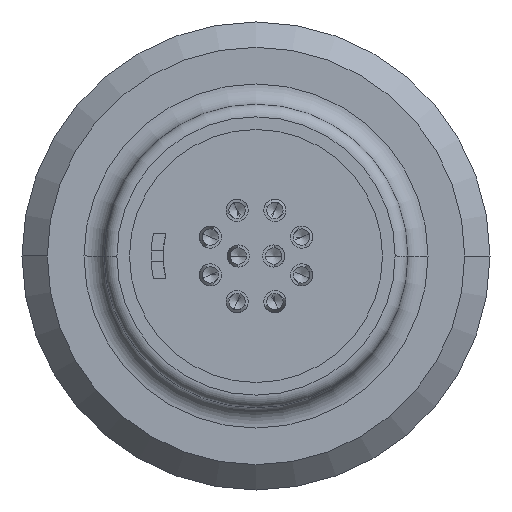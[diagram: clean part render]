
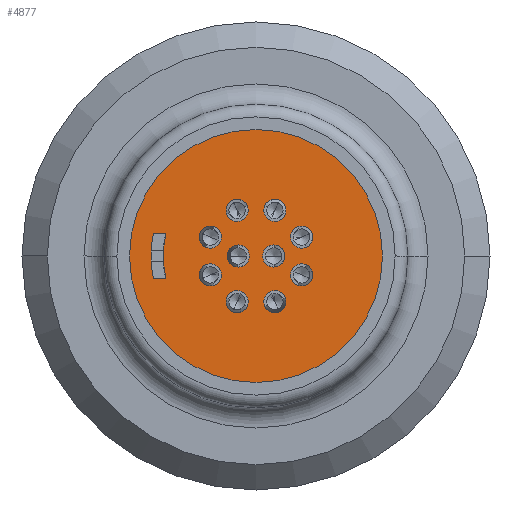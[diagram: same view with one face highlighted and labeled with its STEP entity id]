
A CAD part, left-side view. The second image highlights one B-rep face of the part: STEP entity #4877.
In plain terms, the highlighted planar face has unit normal (-1, 0, 0).
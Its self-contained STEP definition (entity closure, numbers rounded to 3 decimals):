
#157=CARTESIAN_POINT('',(-10.4,0.,0.));
#158=DIRECTION('',(1.,0.,0.));
#159=DIRECTION('',(0.,1.,0.));
#160=AXIS2_PLACEMENT_3D('',#157,#158,#159);
#162=CARTESIAN_POINT('',(-10.4,0.,0.));
#163=DIRECTION('',(1.,0.,0.));
#164=DIRECTION('',(0.,-1.,0.));
#165=AXIS2_PLACEMENT_3D('',#162,#163,#164);
#167=CARTESIAN_POINT('',(-10.4,1.802,0.746));
#168=DIRECTION('',(-1.,0.,0.));
#169=DIRECTION('',(0.,0.924,0.383));
#170=AXIS2_PLACEMENT_3D('',#167,#168,#169);
#172=CARTESIAN_POINT('',(-10.4,1.802,0.746));
#173=DIRECTION('',(-1.,0.,0.));
#174=DIRECTION('',(0.,-0.924,-0.383));
#175=AXIS2_PLACEMENT_3D('',#172,#173,#174);
#177=CARTESIAN_POINT('',(-10.4,0.746,1.802));
#178=DIRECTION('',(-1.,0.,0.));
#179=DIRECTION('',(0.,0.383,0.924));
#180=AXIS2_PLACEMENT_3D('',#177,#178,#179);
#182=CARTESIAN_POINT('',(-10.4,0.746,1.802));
#183=DIRECTION('',(-1.,0.,0.));
#184=DIRECTION('',(0.,-0.383,-0.924));
#185=AXIS2_PLACEMENT_3D('',#182,#183,#184);
#187=CARTESIAN_POINT('',(-10.4,-0.746,1.802));
#188=DIRECTION('',(-1.,0.,0.));
#189=DIRECTION('',(0.,-0.383,0.924));
#190=AXIS2_PLACEMENT_3D('',#187,#188,#189);
#192=CARTESIAN_POINT('',(-10.4,-0.746,1.802));
#193=DIRECTION('',(-1.,0.,0.));
#194=DIRECTION('',(0.,0.383,-0.924));
#195=AXIS2_PLACEMENT_3D('',#192,#193,#194);
#197=CARTESIAN_POINT('',(-10.4,-1.802,0.746));
#198=DIRECTION('',(-1.,0.,0.));
#199=DIRECTION('',(0.,-0.924,0.383));
#200=AXIS2_PLACEMENT_3D('',#197,#198,#199);
#202=CARTESIAN_POINT('',(-10.4,-1.802,0.746));
#203=DIRECTION('',(-1.,0.,0.));
#204=DIRECTION('',(0.,0.924,-0.383));
#205=AXIS2_PLACEMENT_3D('',#202,#203,#204);
#207=CARTESIAN_POINT('',(-10.4,-1.802,-0.746));
#208=DIRECTION('',(-1.,0.,0.));
#209=DIRECTION('',(0.,-0.924,-0.383));
#210=AXIS2_PLACEMENT_3D('',#207,#208,#209);
#212=CARTESIAN_POINT('',(-10.4,-1.802,-0.746));
#213=DIRECTION('',(-1.,0.,0.));
#214=DIRECTION('',(0.,0.924,0.383));
#215=AXIS2_PLACEMENT_3D('',#212,#213,#214);
#217=CARTESIAN_POINT('',(-10.4,-0.746,-1.802));
#218=DIRECTION('',(-1.,0.,0.));
#219=DIRECTION('',(0.,-0.383,-0.924));
#220=AXIS2_PLACEMENT_3D('',#217,#218,#219);
#222=CARTESIAN_POINT('',(-10.4,-0.746,-1.802));
#223=DIRECTION('',(-1.,0.,0.));
#224=DIRECTION('',(0.,0.383,0.924));
#225=AXIS2_PLACEMENT_3D('',#222,#223,#224);
#227=CARTESIAN_POINT('',(-10.4,0.746,-1.802));
#228=DIRECTION('',(-1.,0.,0.));
#229=DIRECTION('',(0.,0.383,-0.924));
#230=AXIS2_PLACEMENT_3D('',#227,#228,#229);
#232=CARTESIAN_POINT('',(-10.4,0.746,-1.802));
#233=DIRECTION('',(-1.,0.,0.));
#234=DIRECTION('',(0.,-0.383,0.924));
#235=AXIS2_PLACEMENT_3D('',#232,#233,#234);
#237=CARTESIAN_POINT('',(-10.4,1.802,-0.746));
#238=DIRECTION('',(-1.,0.,0.));
#239=DIRECTION('',(0.,0.924,-0.383));
#240=AXIS2_PLACEMENT_3D('',#237,#238,#239);
#242=CARTESIAN_POINT('',(-10.4,1.802,-0.746));
#243=DIRECTION('',(-1.,0.,0.));
#244=DIRECTION('',(0.,-0.924,0.383));
#245=AXIS2_PLACEMENT_3D('',#242,#243,#244);
#247=CARTESIAN_POINT('',(-10.4,-0.7,0.));
#248=DIRECTION('',(-1.,0.,0.));
#249=DIRECTION('',(0.,-1.,0.));
#250=AXIS2_PLACEMENT_3D('',#247,#248,#249);
#252=CARTESIAN_POINT('',(-10.4,-0.7,0.));
#253=DIRECTION('',(-1.,0.,0.));
#254=DIRECTION('',(0.,1.,0.));
#255=AXIS2_PLACEMENT_3D('',#252,#253,#254);
#257=CARTESIAN_POINT('',(-10.4,0.7,0.));
#258=DIRECTION('',(-1.,0.,0.));
#259=DIRECTION('',(0.,1.,0.));
#260=AXIS2_PLACEMENT_3D('',#257,#258,#259);
#262=CARTESIAN_POINT('',(-10.4,0.7,0.));
#263=DIRECTION('',(-1.,0.,0.));
#264=DIRECTION('',(0.,-1.,0.));
#265=AXIS2_PLACEMENT_3D('',#262,#263,#264);
#267=CARTESIAN_POINT('',(-10.4,0.,0.));
#268=DIRECTION('',(-1.,0.,0.));
#269=DIRECTION('',(0.,0.976,0.217));
#270=AXIS2_PLACEMENT_3D('',#267,#268,#269);
#272=CARTESIAN_POINT('',(-10.4,0.,0.));
#273=DIRECTION('',(1.,0.,0.));
#274=DIRECTION('',(0.,0.97,-0.245));
#275=AXIS2_PLACEMENT_3D('',#272,#273,#274);
#3731=DIRECTION('',(0.,-1.,0.));
#3732=VECTOR('',#3731,0.488);
#3733=CARTESIAN_POINT('',(-10.4,4.051,0.9));
#3734=LINE('',#3733,#3732);
#3755=DIRECTION('',(0.,1.,0.));
#3756=VECTOR('',#3755,0.488);
#3757=CARTESIAN_POINT('',(-10.4,3.563,-0.9));
#3758=LINE('',#3757,#3756);
#3852=CARTESIAN_POINT('',(-10.4,0.58,-1.4));
#3853=CARTESIAN_POINT('',(-10.4,0.913,-2.203));
#3854=VERTEX_POINT('',#3852);
#3855=VERTEX_POINT('',#3853);
#3856=CARTESIAN_POINT('',(-10.4,5.,0.));
#3857=CARTESIAN_POINT('',(-10.4,-5.,0.));
#3858=VERTEX_POINT('',#3856);
#3859=VERTEX_POINT('',#3857);
#3860=CARTESIAN_POINT('',(-10.4,2.203,0.913));
#3861=CARTESIAN_POINT('',(-10.4,1.4,0.58));
#3862=VERTEX_POINT('',#3860);
#3863=VERTEX_POINT('',#3861);
#3864=CARTESIAN_POINT('',(-10.4,0.913,2.203));
#3865=CARTESIAN_POINT('',(-10.4,0.58,1.4));
#3866=VERTEX_POINT('',#3864);
#3867=VERTEX_POINT('',#3865);
#3868=CARTESIAN_POINT('',(-10.4,-0.913,2.203));
#3869=CARTESIAN_POINT('',(-10.4,-0.58,1.4));
#3870=VERTEX_POINT('',#3868);
#3871=VERTEX_POINT('',#3869);
#3872=CARTESIAN_POINT('',(-10.4,-2.203,0.913));
#3873=CARTESIAN_POINT('',(-10.4,-1.4,0.58));
#3874=VERTEX_POINT('',#3872);
#3875=VERTEX_POINT('',#3873);
#3876=CARTESIAN_POINT('',(-10.4,-2.203,-0.913));
#3877=CARTESIAN_POINT('',(-10.4,-1.4,-0.58));
#3878=VERTEX_POINT('',#3876);
#3879=VERTEX_POINT('',#3877);
#3880=CARTESIAN_POINT('',(-10.4,-0.913,-2.203));
#3881=CARTESIAN_POINT('',(-10.4,-0.58,-1.4));
#3882=VERTEX_POINT('',#3880);
#3883=VERTEX_POINT('',#3881);
#3884=CARTESIAN_POINT('',(-10.4,2.203,-0.913));
#3885=CARTESIAN_POINT('',(-10.4,1.4,-0.58));
#3886=VERTEX_POINT('',#3884);
#3887=VERTEX_POINT('',#3885);
#3888=CARTESIAN_POINT('',(-10.4,-1.135,0.));
#3889=CARTESIAN_POINT('',(-10.4,-0.265,0.));
#3890=VERTEX_POINT('',#3888);
#3891=VERTEX_POINT('',#3889);
#3892=CARTESIAN_POINT('',(-10.4,1.135,0.));
#3893=CARTESIAN_POINT('',(-10.4,0.265,0.));
#3894=VERTEX_POINT('',#3892);
#3895=VERTEX_POINT('',#3893);
#3896=CARTESIAN_POINT('',(-10.4,4.051,0.9));
#3897=CARTESIAN_POINT('',(-10.4,4.051,-0.9));
#3898=VERTEX_POINT('',#3896);
#3899=VERTEX_POINT('',#3897);
#3900=CARTESIAN_POINT('',(-10.4,3.563,-0.9));
#3901=VERTEX_POINT('',#3900);
#3902=CARTESIAN_POINT('',(-10.4,3.563,0.9));
#3903=VERTEX_POINT('',#3902);
#4797=CARTESIAN_POINT('',(-10.4,0.,0.));
#4798=DIRECTION('',(-1.,0.,0.));
#4799=DIRECTION('',(0.,1.,0.));
#4800=AXIS2_PLACEMENT_3D('',#4797,#4798,#4799);
#4801=PLANE('',#4800);
#4803=ORIENTED_EDGE('',*,*,#4802,.T.);
#4805=ORIENTED_EDGE('',*,*,#4804,.T.);
#4806=EDGE_LOOP('',(#4803,#4805));
#4807=FACE_OUTER_BOUND('',#4806,.F.);
#4809=ORIENTED_EDGE('',*,*,#4808,.T.);
#4811=ORIENTED_EDGE('',*,*,#4810,.T.);
#4812=EDGE_LOOP('',(#4809,#4811));
#4813=FACE_BOUND('',#4812,.F.);
#4815=ORIENTED_EDGE('',*,*,#4814,.T.);
#4817=ORIENTED_EDGE('',*,*,#4816,.T.);
#4818=EDGE_LOOP('',(#4815,#4817));
#4819=FACE_BOUND('',#4818,.F.);
#4821=ORIENTED_EDGE('',*,*,#4820,.T.);
#4823=ORIENTED_EDGE('',*,*,#4822,.T.);
#4824=EDGE_LOOP('',(#4821,#4823));
#4825=FACE_BOUND('',#4824,.F.);
#4827=ORIENTED_EDGE('',*,*,#4826,.T.);
#4829=ORIENTED_EDGE('',*,*,#4828,.T.);
#4830=EDGE_LOOP('',(#4827,#4829));
#4831=FACE_BOUND('',#4830,.F.);
#4833=ORIENTED_EDGE('',*,*,#4832,.T.);
#4835=ORIENTED_EDGE('',*,*,#4834,.T.);
#4836=EDGE_LOOP('',(#4833,#4835));
#4837=FACE_BOUND('',#4836,.F.);
#4839=ORIENTED_EDGE('',*,*,#4838,.T.);
#4841=ORIENTED_EDGE('',*,*,#4840,.T.);
#4842=EDGE_LOOP('',(#4839,#4841));
#4843=FACE_BOUND('',#4842,.F.);
#4845=ORIENTED_EDGE('',*,*,#4844,.T.);
#4846=ORIENTED_EDGE('',*,*,#4779,.T.);
#4847=EDGE_LOOP('',(#4845,#4846));
#4848=FACE_BOUND('',#4847,.F.);
#4850=ORIENTED_EDGE('',*,*,#4849,.T.);
#4852=ORIENTED_EDGE('',*,*,#4851,.T.);
#4853=EDGE_LOOP('',(#4850,#4852));
#4854=FACE_BOUND('',#4853,.F.);
#4856=ORIENTED_EDGE('',*,*,#4855,.T.);
#4858=ORIENTED_EDGE('',*,*,#4857,.T.);
#4859=EDGE_LOOP('',(#4856,#4858));
#4860=FACE_BOUND('',#4859,.F.);
#4862=ORIENTED_EDGE('',*,*,#4861,.T.);
#4864=ORIENTED_EDGE('',*,*,#4863,.T.);
#4865=EDGE_LOOP('',(#4862,#4864));
#4866=FACE_BOUND('',#4865,.F.);
#4868=ORIENTED_EDGE('',*,*,#4867,.T.);
#4870=ORIENTED_EDGE('',*,*,#4869,.F.);
#4872=ORIENTED_EDGE('',*,*,#4871,.T.);
#4874=ORIENTED_EDGE('',*,*,#4873,.F.);
#4875=EDGE_LOOP('',(#4868,#4870,#4872,#4874));
#4876=FACE_BOUND('',#4875,.F.);
#161=CIRCLE('',#160,5.);
#166=CIRCLE('',#165,5.);
#171=CIRCLE('',#170,0.435);
#176=CIRCLE('',#175,0.435);
#181=CIRCLE('',#180,0.435);
#186=CIRCLE('',#185,0.435);
#191=CIRCLE('',#190,0.435);
#196=CIRCLE('',#195,0.435);
#201=CIRCLE('',#200,0.435);
#206=CIRCLE('',#205,0.435);
#211=CIRCLE('',#210,0.435);
#216=CIRCLE('',#215,0.435);
#221=CIRCLE('',#220,0.435);
#226=CIRCLE('',#225,0.435);
#231=CIRCLE('',#230,0.435);
#236=CIRCLE('',#235,0.435);
#241=CIRCLE('',#240,0.435);
#246=CIRCLE('',#245,0.435);
#251=CIRCLE('',#250,0.435);
#256=CIRCLE('',#255,0.435);
#261=CIRCLE('',#260,0.435);
#266=CIRCLE('',#265,0.435);
#271=CIRCLE('',#270,4.15);
#276=CIRCLE('',#275,3.675);
#4779=EDGE_CURVE('',#3854,#3855,#236,.T.);
#4802=EDGE_CURVE('',#3858,#3859,#161,.T.);
#4804=EDGE_CURVE('',#3859,#3858,#166,.T.);
#4808=EDGE_CURVE('',#3862,#3863,#171,.T.);
#4810=EDGE_CURVE('',#3863,#3862,#176,.T.);
#4814=EDGE_CURVE('',#3866,#3867,#181,.T.);
#4816=EDGE_CURVE('',#3867,#3866,#186,.T.);
#4820=EDGE_CURVE('',#3870,#3871,#191,.T.);
#4822=EDGE_CURVE('',#3871,#3870,#196,.T.);
#4826=EDGE_CURVE('',#3874,#3875,#201,.T.);
#4828=EDGE_CURVE('',#3875,#3874,#206,.T.);
#4832=EDGE_CURVE('',#3878,#3879,#211,.T.);
#4834=EDGE_CURVE('',#3879,#3878,#216,.T.);
#4838=EDGE_CURVE('',#3882,#3883,#221,.T.);
#4840=EDGE_CURVE('',#3883,#3882,#226,.T.);
#4844=EDGE_CURVE('',#3855,#3854,#231,.T.);
#4849=EDGE_CURVE('',#3886,#3887,#241,.T.);
#4851=EDGE_CURVE('',#3887,#3886,#246,.T.);
#4855=EDGE_CURVE('',#3890,#3891,#251,.T.);
#4857=EDGE_CURVE('',#3891,#3890,#256,.T.);
#4861=EDGE_CURVE('',#3894,#3895,#261,.T.);
#4863=EDGE_CURVE('',#3895,#3894,#266,.T.);
#4867=EDGE_CURVE('',#3898,#3899,#271,.T.);
#4869=EDGE_CURVE('',#3901,#3899,#3758,.T.);
#4871=EDGE_CURVE('',#3901,#3903,#276,.T.);
#4873=EDGE_CURVE('',#3898,#3903,#3734,.T.);
#4877=ADVANCED_FACE('',(#4807,#4813,#4819,#4825,#4831,#4837,#4843,#4848,#4854,
#4860,#4866,#4876),#4801,.T.);
